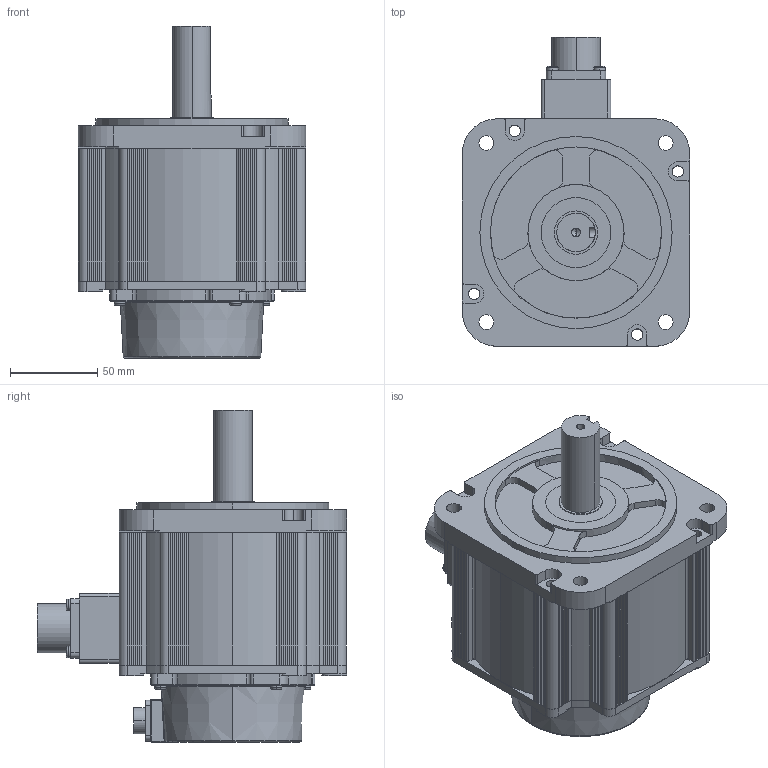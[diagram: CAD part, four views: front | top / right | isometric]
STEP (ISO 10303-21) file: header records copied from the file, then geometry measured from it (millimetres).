
FILE_DESCRIPTION (( 'STEP AP203' ), '1' );
FILE_NAME ('130E-05415.STEP', '2024-09-05T11:09:57', ( '' ), ( '' ), 'SwSTEP 2.0', 'SolidWorks 2018', '' );
FILE_SCHEMA (( 'CONFIG_CONTROL_DESIGN' ));
Length unit declared in the file: millimetre
Products named in the file (10): 130A綴裔潠謹; 18-10; 130Aǰ; 儂褲-5.4; 130A諉盄釱-1; 130E-05415; 蚐猾; SC-CMV1-R10P-E; 橈勤硉晤鎢ん誘欶  S13E.10-01; 堤粣
Assembly tree (9 placements, depth 2):
  130E-05415
    130A綴裔潠謹
    130A諉盄釱-1
    130Aǰ
    堤粣
    蚐猾
    儂褲-5.4
    SC-CMV1-R10P-E
    橈勤硉晤鎢ん誘欶  S13E.10-01
    18-10
Bounding box: 130.2 x 176.9 x 190 mm (x, y, z)
Volume: 574406.6 mm3; surface area: 257548.2 mm2
Topology: 9 solids, 13 shells, 943 faces, 2518 edges, 1644 vertices
Faces by surface type: plane 522, cylinder 344, torus 45, cone 12, sphere 12, bspline 8
Entity records: 31567 total; most frequent: CARTESIAN_POINT 6345, DIRECTION 5136, ORIENTED_EDGE 4980, EDGE_CURVE 2490, AXIS2_PLACEMENT_3D 1748, VECTOR 1640, LINE 1640, VERTEX_POINT 1632
